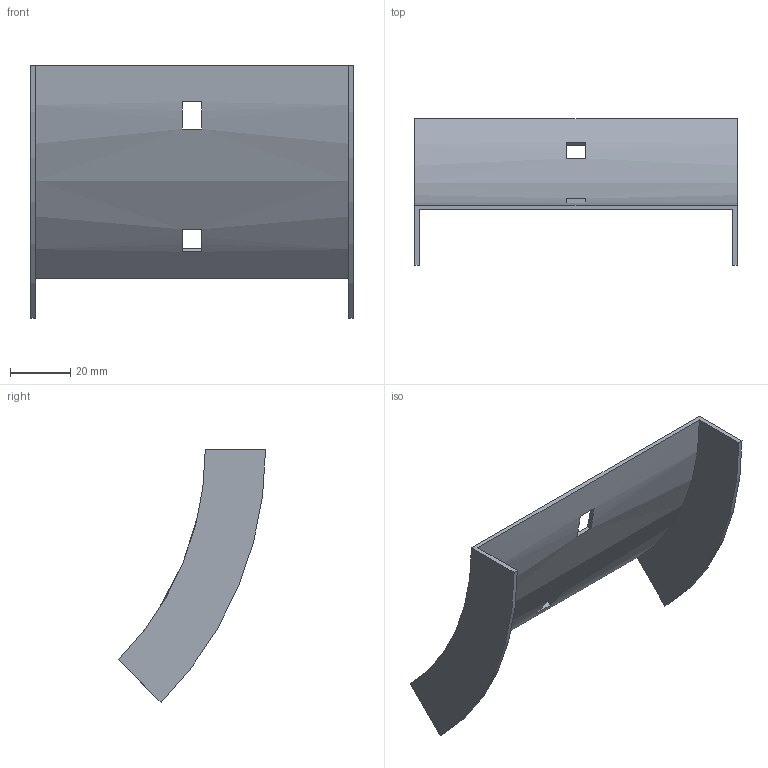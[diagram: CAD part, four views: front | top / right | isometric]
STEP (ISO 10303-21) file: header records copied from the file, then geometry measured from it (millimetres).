
FILE_DESCRIPTION (( 'STEP AP214' ), '1' );
FILE_NAME ('31N1R100.step', '2025-02-21T09:22:56', ( '' ), ( '' ), 'SwSTEP 2.0', 'SolidWorks 2023', '' );
FILE_SCHEMA (( 'AUTOMOTIVE_DESIGN' ));
Length unit declared in the file: millimetre
Products named in the file (1): 31N1R100
Bounding box: 107 x 48.85 x 83.79 mm (x, y, z)
Volume: 17095.2 mm3; surface area: 23597.4 mm2
Topology: 1 solids, 1 shells, 18 faces, 48 edges, 32 vertices
Faces by surface type: plane 14, cylinder 4
Entity records: 599 total; most frequent: DIRECTION 102, CARTESIAN_POINT 99, ORIENTED_EDGE 96, EDGE_CURVE 48, AXIS2_PLACEMENT_3D 35, LINE 32, VECTOR 32, VERTEX_POINT 32
